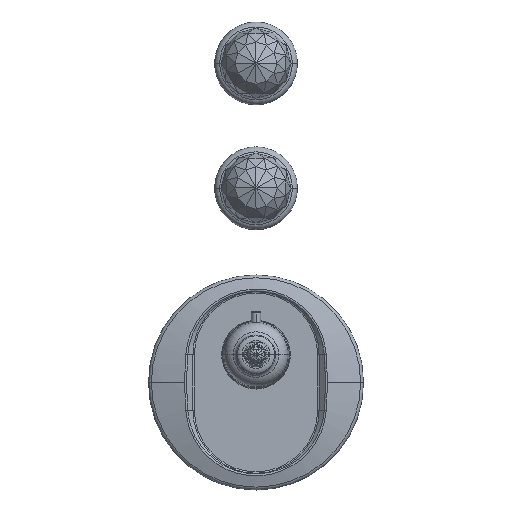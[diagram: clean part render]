
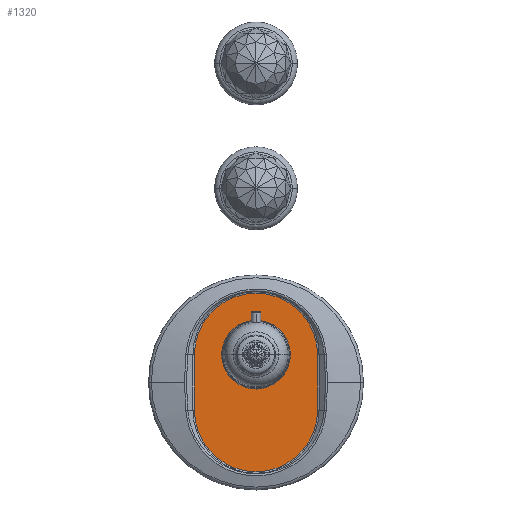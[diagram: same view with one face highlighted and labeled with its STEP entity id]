
A CAD part, top view. The second image highlights one B-rep face of the part: STEP entity #1320.
In plain terms, the highlighted planar face has unit normal (0, 0, 1).
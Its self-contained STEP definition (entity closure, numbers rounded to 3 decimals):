
#611=DIRECTION('',(0.,-1.,0.));
#612=VECTOR('',#611,40.);
#613=CARTESIAN_POINT('',(-44.379,0.,18.5));
#614=LINE('',#613,#612);
#615=CARTESIAN_POINT('',(0.,0.,18.5));
#616=DIRECTION('',(0.,0.,1.));
#617=DIRECTION('',(1.,0.,0.));
#618=AXIS2_PLACEMENT_3D('',#615,#616,#617);
#620=DIRECTION('',(0.,1.,0.));
#621=VECTOR('',#620,40.);
#622=CARTESIAN_POINT('',(44.379,-40.,18.5));
#623=LINE('',#622,#621);
#624=CARTESIAN_POINT('',(0.,-40.,18.5));
#625=DIRECTION('',(0.,0.,1.));
#626=DIRECTION('',(-1.,0.,0.));
#627=AXIS2_PLACEMENT_3D('',#624,#625,#626);
#629=CARTESIAN_POINT('',(0.,0.,18.5));
#630=DIRECTION('',(0.,0.,1.));
#631=DIRECTION('',(-1.,0.,0.));
#632=AXIS2_PLACEMENT_3D('',#629,#630,#631);
#639=CARTESIAN_POINT('',(0.,0.,18.5));
#640=DIRECTION('',(0.,0.,1.));
#641=DIRECTION('',(1.,0.,0.));
#642=AXIS2_PLACEMENT_3D('',#639,#640,#641);
#765=CARTESIAN_POINT('',(-44.379,0.,18.5));
#766=CARTESIAN_POINT('',(-44.379,-40.,18.5));
#767=VERTEX_POINT('',#765);
#768=VERTEX_POINT('',#766);
#771=CARTESIAN_POINT('',(44.379,-40.,18.5));
#772=VERTEX_POINT('',#771);
#775=CARTESIAN_POINT('',(44.379,0.,18.5));
#776=VERTEX_POINT('',#775);
#791=CARTESIAN_POINT('',(-23.9,0.,18.5));
#792=CARTESIAN_POINT('',(23.9,0.,18.5));
#793=VERTEX_POINT('',#791);
#794=VERTEX_POINT('',#792);
#1303=CARTESIAN_POINT('',(-45.,0.,18.5));
#1304=DIRECTION('',(0.,0.,-1.));
#1305=DIRECTION('',(1.,0.,0.));
#1306=AXIS2_PLACEMENT_3D('',#1303,#1304,#1305);
#1307=PLANE('',#1306);
#1308=ORIENTED_EDGE('',*,*,#1257,.F.);
#1309=ORIENTED_EDGE('',*,*,#1271,.F.);
#1310=ORIENTED_EDGE('',*,*,#1285,.F.);
#1311=ORIENTED_EDGE('',*,*,#1242,.F.);
#1312=EDGE_LOOP('',(#1308,#1309,#1310,#1311));
#1313=FACE_OUTER_BOUND('',#1312,.F.);
#1315=ORIENTED_EDGE('',*,*,#1314,.T.);
#1317=ORIENTED_EDGE('',*,*,#1316,.T.);
#1318=EDGE_LOOP('',(#1315,#1317));
#1319=FACE_BOUND('',#1318,.F.);
#1320=ADVANCED_FACE('',(#1313,#1319),#1307,.F.);
#619=CIRCLE('',#618,44.379);
#628=CIRCLE('',#627,44.379);
#633=CIRCLE('',#632,23.9);
#643=CIRCLE('',#642,23.9);
#1242=EDGE_CURVE('',#768,#772,#628,.T.);
#1257=EDGE_CURVE('',#767,#768,#614,.T.);
#1271=EDGE_CURVE('',#776,#767,#619,.T.);
#1285=EDGE_CURVE('',#772,#776,#623,.T.);
#1314=EDGE_CURVE('',#793,#794,#633,.T.);
#1316=EDGE_CURVE('',#794,#793,#643,.T.);
